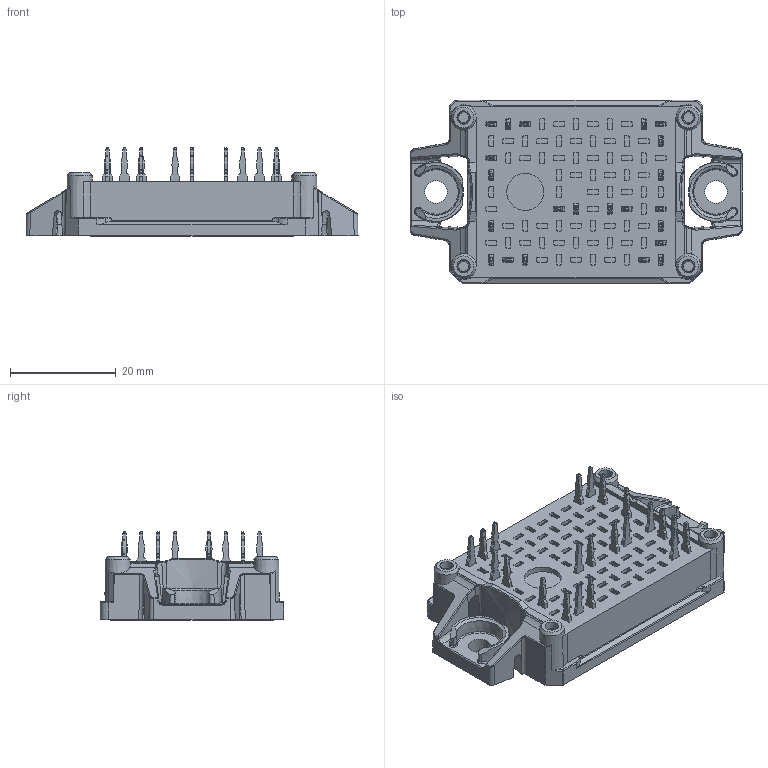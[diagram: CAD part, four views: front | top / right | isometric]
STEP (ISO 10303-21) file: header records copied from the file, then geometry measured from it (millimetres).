
FILE_DESCRIPTION(/* description */ ('Unknown'),/* implementation_level */ '2;1');
FILE_NAME(/* name */ 'FlowE1-4T12TA-L850(220)-02-OL',/* time_stamp */ '2026-02-27T08:18:53+01:00',/* author */ ('Unknown'),/* organization */ ('Unknown'),/* preprocessor_version */ 'ST-DEVELOPER v20',/* originating_system */ 'Solid Edge',/* authorisation */ 'Unknown');
FILE_SCHEMA (('AUTOMOTIVE_DESIGN {1 0 10303 214 3 1 1}'));
Products named in the file (1): FlowE1-4T12TA-L850-OL
Bounding box: 62.8 x 34.78 x 16.79 mm (x, y, z)
Volume: 15614.4 mm3; surface area: 8366.9 mm2
Topology: 1 solids, 1 shells, 2548 faces, 6425 edges, 3976 vertices
Faces by surface type: plane 1291, cylinder 679, cone 422, bspline 118, torus 24, sphere 14
Full cylindrical faces by diameter (mm): 4.3 x2, 7 x1
Entity records: 94668 total; most frequent: CARTESIAN_POINT 15622, DIRECTION 12888, ORIENTED_EDGE 12748, EDGE_CURVE 6374, AXIS2_PLACEMENT_3D 4405, LINE 4078, VECTOR 4078, VERTEX_POINT 3968
